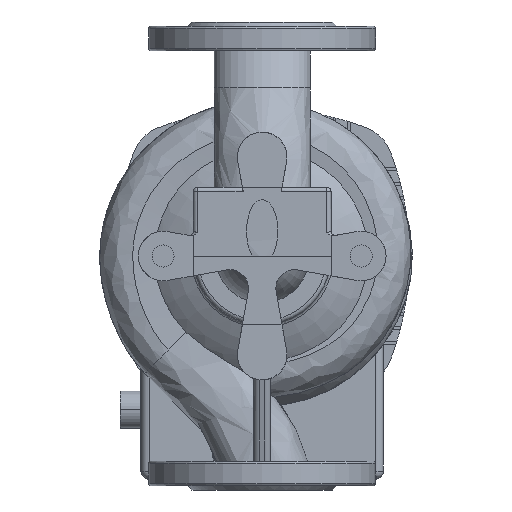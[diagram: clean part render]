
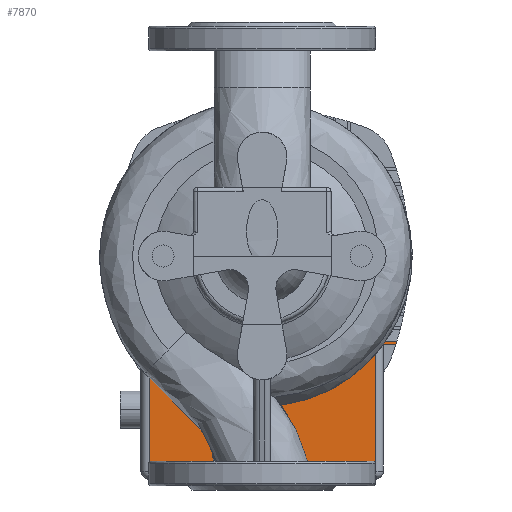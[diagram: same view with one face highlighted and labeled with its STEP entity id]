
A CAD part, front view. The second image highlights one B-rep face of the part: STEP entity #7870.
In plain terms, the highlighted planar face has unit normal (0, -1, 0) as drawn and (0, 0, 1) by its records, which use the part's own axes.
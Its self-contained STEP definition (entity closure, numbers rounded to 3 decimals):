
#329 = CARTESIAN_POINT ( 'NONE',  ( 82.1, 156.227, -113.5 ) ) ;
#390 = EDGE_CURVE ( 'NONE', #13604, #12396, #23020, .T. ) ;
#580 = VERTEX_POINT ( 'NONE', #13910 ) ;
#1002 = PLANE ( 'NONE',  #8459 ) ;
#1454 = DIRECTION ( 'NONE',  ( 1., 0., 0. ) ) ;
#1845 = CARTESIAN_POINT ( 'NONE',  ( -107., 62., -113.5 ) ) ;
#2103 = CARTESIAN_POINT ( 'NONE',  ( 97.799, 62., -113.5 ) ) ;
#2835 = CARTESIAN_POINT ( 'NONE',  ( -82.1, 107., -113.5 ) ) ;
#2995 = VERTEX_POINT ( 'NONE', #18670 ) ;
#3013 = AXIS2_PLACEMENT_3D ( 'NONE', #4580, #22908, #18818 ) ;
#3393 = DIRECTION ( 'NONE',  ( 1., 0., 0. ) ) ;
#4204 = ORIENTED_EDGE ( 'NONE', *, *, #7106, .F. ) ;
#4278 = CARTESIAN_POINT ( 'NONE',  ( 106.5, 0., -113.5 ) ) ;
#4580 = CARTESIAN_POINT ( 'NONE',  ( 0., 0., -113.5 ) ) ;
#4878 = CARTESIAN_POINT ( 'NONE',  ( 65.926, 62., -113.5 ) ) ;
#4962 = FACE_OUTER_BOUND ( 'NONE', #11156, .T. ) ;
#4989 = LINE ( 'NONE', #13034, #19327 ) ;
#5569 = CARTESIAN_POINT ( 'NONE',  ( -107., 64., -113.5 ) ) ;
#5635 = VERTEX_POINT ( 'NONE', #2103 ) ;
#5745 = EDGE_CURVE ( 'NONE', #17893, #5635, #13421, .T. ) ;
#5960 = AXIS2_PLACEMENT_3D ( 'NONE', #4278, #18646, #10224 ) ;
#6051 = CARTESIAN_POINT ( 'NONE',  ( -82.1, 156.227, -113.5 ) ) ;
#6208 = EDGE_CURVE ( 'NONE', #9259, #12138, #4989, .T. ) ;
#6352 = ORIENTED_EDGE ( 'NONE', *, *, #390, .T. ) ;
#6359 = CARTESIAN_POINT ( 'NONE',  ( -82.1, 64., -113.5 ) ) ;
#6514 = VECTOR ( 'NONE', #10032, 1000. ) ;
#6527 = ORIENTED_EDGE ( 'NONE', *, *, #12015, .T. ) ;
#7106 = EDGE_CURVE ( 'NONE', #580, #12396, #25353, .T. ) ;
#7299 = DIRECTION ( 'NONE',  ( 1., 0., 0. ) ) ;
#7838 = ORIENTED_EDGE ( 'NONE', *, *, #19741, .T. ) ;
#7870 = ADVANCED_FACE ( 'NONE', ( #4962 ), #1002, .T. ) ;
#8459 = AXIS2_PLACEMENT_3D ( 'NONE', #14722, #17219, #16838 ) ;
#8935 = CIRCLE ( 'NONE', #3013, 90.5 ) ;
#9259 = VERTEX_POINT ( 'NONE', #17073 ) ;
#9349 = CARTESIAN_POINT ( 'NONE',  ( -107., 62., -113.5 ) ) ;
#9497 = ORIENTED_EDGE ( 'NONE', *, *, #19525, .T. ) ;
#10032 = DIRECTION ( 'NONE',  ( 1., 0., 0. ) ) ;
#10224 = DIRECTION ( 'NONE',  ( 1., 0., 0. ) ) ;
#10226 = VERTEX_POINT ( 'NONE', #329 ) ;
#10900 = DIRECTION ( 'NONE',  ( 0., -1., 0. ) ) ;
#11034 = CARTESIAN_POINT ( 'NONE',  ( 0., -338., -113.5 ) ) ;
#11125 = CARTESIAN_POINT ( 'NONE',  ( 97.182, 64., -113.5 ) ) ;
#11156 = EDGE_LOOP ( 'NONE', ( #11676, #7838, #21325, #6352, #4204, #6527, #20848, #9497, #24690, #21322 ) ) ;
#11278 = DIRECTION ( 'NONE',  ( 0., 0., 1. ) ) ;
#11676 = ORIENTED_EDGE ( 'NONE', *, *, #6208, .F. ) ;
#12015 = EDGE_CURVE ( 'NONE', #580, #15748, #19431, .T. ) ;
#12138 = VERTEX_POINT ( 'NONE', #11125 ) ;
#12396 = VERTEX_POINT ( 'NONE', #6359 ) ;
#12716 = EDGE_CURVE ( 'NONE', #10226, #13604, #16949, .T. ) ;
#12949 = VECTOR ( 'NONE', #25130, 1000. ) ;
#13034 = CARTESIAN_POINT ( 'NONE',  ( -107., 64., -113.5 ) ) ;
#13400 = LINE ( 'NONE', #24329, #19846 ) ;
#13421 = LINE ( 'NONE', #9349, #25631 ) ;
#13563 = AXIS2_PLACEMENT_3D ( 'NONE', #11034, #11278, #10900 ) ;
#13604 = VERTEX_POINT ( 'NONE', #6051 ) ;
#13844 = CARTESIAN_POINT ( 'NONE',  ( -106.5, 0., -113.5 ) ) ;
#13910 = CARTESIAN_POINT ( 'NONE',  ( -97.182, 64., -113.5 ) ) ;
#14461 = DIRECTION ( 'NONE',  ( 0., 1., 0. ) ) ;
#14722 = CARTESIAN_POINT ( 'NONE',  ( 51.5, 107., -113.5 ) ) ;
#15748 = VERTEX_POINT ( 'NONE', #16343 ) ;
#15829 = LINE ( 'NONE', #1845, #6514 ) ;
#16343 = CARTESIAN_POINT ( 'NONE',  ( -97.799, 62., -113.5 ) ) ;
#16838 = DIRECTION ( 'NONE',  ( 0., -1., 0. ) ) ;
#16949 = CIRCLE ( 'NONE', #13563, 501. ) ;
#17040 = AXIS2_PLACEMENT_3D ( 'NONE', #13844, #19524, #1454 ) ;
#17073 = CARTESIAN_POINT ( 'NONE',  ( 82.1, 64., -113.5 ) ) ;
#17219 = DIRECTION ( 'NONE',  ( 0., 0., 1. ) ) ;
#17893 = VERTEX_POINT ( 'NONE', #4878 ) ;
#18646 = DIRECTION ( 'NONE',  ( 0., 0., 1. ) ) ;
#18670 = CARTESIAN_POINT ( 'NONE',  ( -65.926, 62., -113.5 ) ) ;
#18818 = DIRECTION ( 'NONE',  ( 1., 0., 0. ) ) ;
#19327 = VECTOR ( 'NONE', #3393, 1000. ) ;
#19431 = CIRCLE ( 'NONE', #5960, 213.5 ) ;
#19524 = DIRECTION ( 'NONE',  ( 0., 0., 1. ) ) ;
#19525 = EDGE_CURVE ( 'NONE', #2995, #17893, #8935, .T. ) ;
#19546 = CIRCLE ( 'NONE', #17040, 213.5 ) ;
#19741 = EDGE_CURVE ( 'NONE', #9259, #10226, #13400, .T. ) ;
#19846 = VECTOR ( 'NONE', #14461, 1000. ) ;
#20848 = ORIENTED_EDGE ( 'NONE', *, *, #23314, .T. ) ;
#21322 = ORIENTED_EDGE ( 'NONE', *, *, #23185, .T. ) ;
#21325 = ORIENTED_EDGE ( 'NONE', *, *, #12716, .T. ) ;
#21469 = VECTOR ( 'NONE', #7299, 1000. ) ;
#21723 = DIRECTION ( 'NONE',  ( 1., 0., 0. ) ) ;
#22908 = DIRECTION ( 'NONE',  ( 0., 0., -1. ) ) ;
#23020 = LINE ( 'NONE', #2835, #12949 ) ;
#23185 = EDGE_CURVE ( 'NONE', #5635, #12138, #19546, .T. ) ;
#23314 = EDGE_CURVE ( 'NONE', #15748, #2995, #15829, .T. ) ;
#24329 = CARTESIAN_POINT ( 'NONE',  ( 82.1, 107., -113.5 ) ) ;
#24690 = ORIENTED_EDGE ( 'NONE', *, *, #5745, .T. ) ;
#25130 = DIRECTION ( 'NONE',  ( 0., -1., 0. ) ) ;
#25353 = LINE ( 'NONE', #5569, #21469 ) ;
#25631 = VECTOR ( 'NONE', #21723, 1000. ) ;
